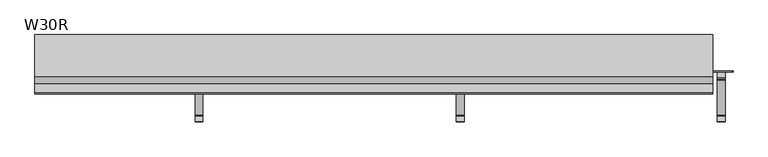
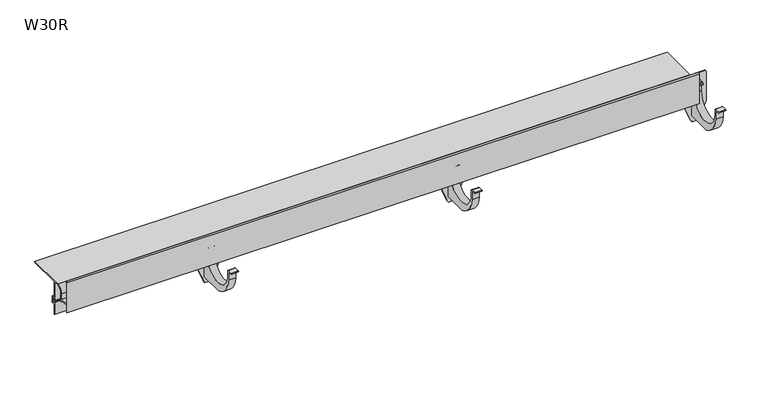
"""IFC4 building model written with IfcOpenShell, lengths in millimetres: proxy geometry, W30R Profil okapowy prosty z rynną : W30R."""

from ifc_helpers import new_model, si_unit, point, frame, frame_2d, origin, place, context, project, spatial, polyline, circle_curve, trimmed, segment, composite_curve, outline, extrude, source, transform, mapped, element, save
from ifc_brep_helpers import plane_surface, cylinder_surface, revolved_surface, advanced_brep


def w30r_3a325fd7(model_context):
    return source(origin(), model_context, "Body", "SolidModel", [
        advanced_brep(
        [(1306.4889281, -43.253125, -67.3579557), (1306.4889281, 31.746875, -67.3579557), (1306.4889281, 33.746875, -48.4650699), (1306.4889281, 28.3326614, -49.0508489), (1306.4889281, 26.9184479, -50.4650625), (1306.4889281, 25.5042343, -49.0508489), (1306.4889281, 26.9184479, -47.6366354), (1306.4889281, 29.746875, -46.4650625), (1306.4889281, 39.746875, -46.4650625), (1306.4889281, 39.746875, -121.4650625), (1306.4889281, -11.253125, -121.4654849), (1306.4889281, -45.753125, -76.6748546), (1306.4889281, -45.753125, -62.0548341), (1306.4889281, -45.753125, -58.4654849), (1306.4889281, -54.253125, -58.4654849), (1306.4889281, -54.253125, -56.4654849), (1306.4889281, -44.253125, -56.4654849), (1306.4889281, -43.253125, -57.4654849), (1321.4889281, -43.253125, -67.3579557), (1321.4889281, -43.253125, -57.4654849), (1321.4889281, -44.253125, -56.4654849), (1321.4889281, -54.253125, -56.4654849), (1321.4889281, -54.253125, -58.4654849), (1321.4889281, -45.753125, -58.4654849), (1321.4889281, -45.753125, -62.0548341), (1321.4889281, -45.753125, -76.6748546), (1321.4889281, -11.253125, -121.4654849), (1321.4889281, 39.746875, -121.4650625), (1321.4889281, 39.746875, -46.4650625), (1321.4889281, 29.746875, -46.4650625), (1321.4889281, 26.9184479, -47.6366354), (1321.4889281, 25.5042343, -49.0508489), (1321.4889281, 26.9184479, -50.4650625), (1321.4889281, 28.3326614, -49.0508489), (1321.4889281, 33.746875, -48.4650699), (1321.4889281, 31.746875, -67.3579557), (1333.4889281, 39.746875, -33.4650625), (1294.4889281, 39.746875, -33.4650625), (1291.4889281, 39.746875, -36.4650625), (1291.4889281, 39.746875, -98.4650625), (1305.7196973, 39.746875, -132.6189087), (1308.4889281, 39.746875, -134.4650625), (1319.4889281, 39.746875, -134.4650625), (1322.2581588, 39.746875, -132.6189087), (1336.4889281, 39.746875, -98.4650625), (1336.4889281, 39.746875, -36.4650625), (1333.4889281, 41.746875, -33.4650625), (1336.4889281, 41.746875, -36.4650625), (1336.4889281, 41.746875, -98.4650625), (1322.2581588, 41.746875, -132.6189087), (1319.4889281, 41.746875, -134.4650625), (1308.4889281, 41.746875, -134.4650625), (1305.7196973, 41.746875, -132.6189087), (1291.4889281, 41.746875, -98.4650625), (1291.4889281, 41.746875, -36.4650625), (1294.4889281, 41.746875, -33.4650625)],
        [
            (0, 1, circle_curve(frame((1306.4889281, -5.753125, -67.3579557), z_axis=(1.0, 0.0, 0.0), x_axis=(0.0, -1.0, 0.0)), 37.5)),
            (1, 2),
            (2, 3, circle_curve(frame((1306.4889281, 32.9075381, -66.0213045), z_axis=(1.0, 0.0, 0.0), x_axis=(0.0, -1.0, 0.0)), 17.5762868)),
            (3, 4),
            (4, 5, circle_curve(frame((1306.4889281, 26.2113411, -49.7579557), z_axis=(-1.0, 0.0, 0.0), x_axis=(0.0, -1.0, 0.0)), 1.0)),
            (5, 6),
            (6, 7, circle_curve(frame((1306.4889281, 29.746875, -50.4650625), z_axis=(-1.0, 0.0, 0.0), x_axis=(0.0, -1.0, 0.0)), 4.0)),
            (7, 8),
            (8, 9),
            (9, 10),
            (10, 11, circle_curve(frame((1306.4889281, 6.9272146, -71.7799373), z_axis=(-1.0, 0.0, 0.0), x_axis=(0.0, -1.0, 0.0)), 52.9072622)),
            (11, 12),
            (12, 13),
            (13, 14),
            (14, 15, circle_curve(frame((1306.4889281, -54.253125, -57.4654849), z_axis=(-1.0, 0.0, 0.0), x_axis=(0.0, -1.0, 0.0)), 1.0)),
            (15, 16),
            (16, 17, circle_curve(frame((1306.4889281, -44.253125, -57.4654849), z_axis=(-1.0, 0.0, 0.0), x_axis=(0.0, -1.0, 0.0)), 1.0)),
            (17, 0),
            (18, 19),
            (19, 20, circle_curve(frame((1321.4889281, -44.253125, -57.4654849), z_axis=(1.0, 0.0, 0.0), x_axis=(0.0, -1.0, 0.0)), 1.0)),
            (20, 21),
            (21, 22, circle_curve(frame((1321.4889281, -54.253125, -57.4654849), z_axis=(1.0, 0.0, 0.0), x_axis=(0.0, -1.0, 0.0)), 1.0)),
            (22, 23),
            (23, 24),
            (24, 25),
            (25, 26, circle_curve(frame((1321.4889281, 6.9272146, -71.7799373), z_axis=(1.0, 0.0, 0.0), x_axis=(0.0, -1.0, 0.0)), 52.9072622)),
            (26, 27),
            (27, 28),
            (28, 29),
            (29, 30, circle_curve(frame((1321.4889281, 29.746875, -50.4650625), z_axis=(1.0, 0.0, 0.0), x_axis=(0.0, -1.0, 0.0)), 4.0)),
            (30, 31),
            (31, 32, circle_curve(frame((1321.4889281, 26.2113411, -49.7579557), z_axis=(1.0, 0.0, 0.0), x_axis=(0.0, -1.0, 0.0)), 1.0)),
            (32, 33),
            (33, 34, circle_curve(frame((1321.4889281, 32.9075381, -66.0213045), z_axis=(-1.0, 0.0, 0.0), x_axis=(0.0, -1.0, 0.0)), 17.5762868)),
            (34, 35),
            (35, 18, circle_curve(frame((1321.4889281, -5.753125, -67.3579557), z_axis=(-1.0, 0.0, 0.0), x_axis=(0.0, -1.0, 0.0)), 37.5)),
            (17, 19),
            (18, 0),
            (16, 20),
            (15, 21),
            (14, 22),
            (13, 23),
            (12, 24),
            (11, 25),
            (10, 26),
            (9, 27),
            (7, 29),
            (28, 8),
            (6, 30),
            (5, 31),
            (4, 32),
            (3, 33),
            (2, 34),
            (1, 35),
            (36, 37),
            (37, 38, circle_curve(frame((1294.4889281, 39.746875, -36.4650625), z_axis=(0.0, -1.0, 0.0), x_axis=(1.0, 0.0, 0.0)), 3.0)),
            (38, 39),
            (39, 40),
            (40, 41, circle_curve(frame((1308.4889281, 39.746875, -131.4650625), z_axis=(0.0, -1.0, 0.0), x_axis=(1.0, 0.0, 0.0)), 3.0)),
            (41, 42),
            (42, 43, circle_curve(frame((1319.4889281, 39.746875, -131.4650625), z_axis=(0.0, -1.0, 0.0), x_axis=(1.0, 0.0, 0.0)), 3.0)),
            (43, 44),
            (44, 45),
            (45, 36, circle_curve(frame((1333.4889281, 39.746875, -36.4650625), z_axis=(0.0, -1.0, 0.0), x_axis=(1.0, 0.0, 0.0)), 3.0)),
            (46, 47, circle_curve(frame((1333.4889281, 41.746875, -36.4650625), z_axis=(0.0, 1.0, 0.0), x_axis=(1.0, 0.0, 0.0)), 3.0)),
            (47, 48),
            (48, 49),
            (49, 50, circle_curve(frame((1319.4889281, 41.746875, -131.4650625), z_axis=(0.0, 1.0, 0.0), x_axis=(1.0, 0.0, 0.0)), 3.0)),
            (50, 51),
            (51, 52, circle_curve(frame((1308.4889281, 41.746875, -131.4650625), z_axis=(0.0, 1.0, 0.0), x_axis=(1.0, 0.0, 0.0)), 3.0)),
            (52, 53),
            (53, 54),
            (54, 55, circle_curve(frame((1294.4889281, 41.746875, -36.4650625), z_axis=(0.0, 1.0, 0.0), x_axis=(1.0, 0.0, 0.0)), 3.0)),
            (55, 46),
            (36, 46),
            (55, 37),
            (54, 38),
            (53, 39),
            (52, 40),
            (51, 41),
            (50, 42),
            (49, 43),
            (48, 44),
            (47, 45),
        ],
        [
            plane_surface(frame((1306.4889281, -43.253125, -57.4654849), z_axis=(-1.0, 0.0, 0.0), x_axis=(0.0, 0.0, -1.0))),
            plane_surface(frame((1321.4889281, -43.253125, -57.4654849), z_axis=(1.0, 0.0, 0.0), x_axis=(0.0, 0.0, 1.0))),
            plane_surface(frame((1321.4889281, -43.253125, -67.3579557), z_axis=(0.0, 1.0, 0.0), x_axis=(-1.0, 0.0, 0.0))),
            cylinder_surface(frame((1306.4889281, -44.253125, -57.4654849), z_axis=(1.0, 0.0, 0.0), x_axis=(0.0, -1.0, 0.0)), 1.0),
            plane_surface(frame((1321.4889281, -44.253125, -56.4654849), z_axis=(0.0, 0.0, 1.0), x_axis=(-1.0, 0.0, 0.0))),
            cylinder_surface(frame((1306.4889281, -54.253125, -57.4654849), z_axis=(1.0, 0.0, 0.0), x_axis=(0.0, -1.0, 0.0)), 1.0),
            plane_surface(frame((1321.4889281, -54.253125, -58.4654849), z_axis=(0.0, 0.0, -1.0), x_axis=(-1.0, 0.0, 0.0))),
            plane_surface(frame((1321.4889281, -45.753125, -58.4654849), z_axis=(0.0, -1.0, 0.0), x_axis=(-1.0, 0.0, 0.0))),
            plane_surface(frame((1321.4889281, -45.753125, -62.0548341), z_axis=(0.0, -1.0, 0.0), x_axis=(-1.0, 0.0, 0.0))),
            cylinder_surface(frame((1306.4889281, 6.9272146, -71.7799373), z_axis=(1.0, 0.0, 0.0), x_axis=(0.0, -1.0, 0.0)), 52.9072622),
            plane_surface(frame((1321.4889281, -11.253125, -121.4654849), z_axis=(0.0, 8.283194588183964e-06, -0.9999999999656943), x_axis=(-1.0, 0.0, 0.0))),
            plane_surface(frame((1321.4889281, 40.7901639, -46.4650625), z_axis=(0.0, 0.0, 1.0), x_axis=(-1.0, 0.0, 0.0))),
            cylinder_surface(frame((1306.4889281, 29.746875, -50.4650625), z_axis=(1.0, 0.0, 0.0), x_axis=(0.0, -1.0, 0.0)), 4.0),
            plane_surface(frame((1321.4889281, 26.9184479, -47.6366354), z_axis=(0.0, -0.7071067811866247, 0.7071067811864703), x_axis=(-1.0, 0.0, 0.0))),
            cylinder_surface(frame((1306.4889281, 26.2113411, -49.7579557), z_axis=(1.0, 0.0, 0.0), x_axis=(0.0, -1.0, 0.0)), 1.0),
            plane_surface(frame((1321.4889281, 26.9184479, -50.4650625), z_axis=(0.0, 0.7071067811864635, -0.7071067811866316), x_axis=(-1.0, 0.0, 0.0))),
            revolved_surface(polyline([(1306.4889281, 15.331251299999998, -66.0213045), (1321.4889281, 15.331251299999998, -66.0213045)]), (1306.4889281, 32.9075381, -66.0213045), (-1.0, 0.0, 0.0)),
            plane_surface(frame((1321.4889281, 33.746875, -48.4650699), z_axis=(0.0, -0.9944434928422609, 0.10527174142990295), x_axis=(-1.0, 0.0, 0.0))),
            revolved_surface(polyline([(1306.4889281, -43.253125, -67.3579557), (1321.4889281, -43.253125, -67.3579557)]), (1306.4889281, -5.753125, -67.3579557), (-1.0, 0.0, 0.0)),
            plane_surface(frame((1294.4889281, 39.746875, -33.4650625), z_axis=(0.0, -1.0, 0.0), x_axis=(-1.0, 0.0, 0.0))),
            plane_surface(frame((1294.4889281, 41.746875, -33.4650625), z_axis=(0.0, 1.0, 0.0), x_axis=(1.0, 0.0, 0.0))),
            plane_surface(frame((1333.4889281, 39.746875, -33.4650625), z_axis=(0.0, 0.0, 1.0), x_axis=(0.0, 1.0, 0.0))),
            cylinder_surface(frame((1294.4889281, 41.746875, -36.4650625), z_axis=(0.0, -1.0, 0.0), x_axis=(1.0, 0.0, 0.0)), 3.0),
            plane_surface(frame((1291.4889281, 39.746875, -36.4650625), z_axis=(-1.0, 0.0, 0.0), x_axis=(0.0, 1.0, 0.0))),
            plane_surface(frame((1291.4889281, 39.746875, -98.4650625), z_axis=(-0.9230769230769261, 0.0, -0.38461538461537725), x_axis=(0.0, 1.0, 0.0))),
            cylinder_surface(frame((1308.4889281, 41.746875, -131.4650625), z_axis=(0.0, -1.0, 0.0), x_axis=(1.0, 0.0, 0.0)), 3.0),
            plane_surface(frame((1308.4889281, 39.746875, -134.4650625), z_axis=(0.0, 0.0, -1.0), x_axis=(0.0, 1.0, 0.0))),
            cylinder_surface(frame((1319.4889281, 41.746875, -131.4650625), z_axis=(0.0, -1.0, 0.0), x_axis=(1.0, 0.0, 0.0)), 3.0),
            plane_surface(frame((1322.2581588, 39.746875, -132.6189087), z_axis=(0.9230769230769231, 0.0, -0.3846153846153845), x_axis=(0.0, 1.0, 0.0))),
            plane_surface(frame((1336.4889281, 39.746875, -98.4650625), z_axis=(1.0, 0.0, 0.0), x_axis=(0.0, 1.0, 0.0))),
            cylinder_surface(frame((1333.4889281, 41.746875, -36.4650625), z_axis=(0.0, -1.0, 0.0), x_axis=(1.0, 0.0, 0.0)), 3.0),
        ],
        [
            (0, [[1, 2, 3, 4, 5, 6, 7, 8, 9, 10, 11, 12, 13, 14, 15, 16, 17, 18]]),
            (1, [[19, 20, 21, 22, 23, 24, 25, 26, 27, 28, 29, 30, 31, 32, 33, 34, 35, 36]]),
            (2, [[-18, 37, -19, 38]]),
            (3, [[-17, 39, -20, -37]]),
            (4, [[-16, 40, -21, -39]]),
            (5, [[-15, 41, -22, -40]]),
            (6, [[-14, 42, -23, -41]]),
            (7, [[-13, 43, -24, -42]]),
            (8, [[-12, 44, -25, -43]]),
            (9, [[-11, 45, -26, -44]]),
            (10, [[-45, -10, 46, -27]]),
            (11, [[47, -29, 48, -8]]),
            (12, [[-7, 49, -30, -47]]),
            (13, [[-6, 50, -31, -49]]),
            (14, [[-5, 51, -32, -50]]),
            (15, [[-4, 52, -33, -51]]),
            (16, [[-3, 53, -34, -52]]),
            (17, [[-2, 54, -35, -53]]),
            (18, [[-1, -38, -36, -54]]),
            (19, [[55, 56, 57, 58, 59, 60, 61, 62, 63, 64], [-9, -48, -28, -46]]),
            (20, [[65, 66, 67, 68, 69, 70, 71, 72, 73, 74]]),
            (21, [[-55, 75, -74, 76]]),
            (22, [[-56, -76, -73, 77]]),
            (23, [[-57, -77, -72, 78]]),
            (24, [[-58, -78, -71, 79]]),
            (25, [[-59, -79, -70, 80]]),
            (26, [[-60, -80, -69, 81]]),
            (27, [[-61, -81, -68, 82]]),
            (28, [[-62, -82, -67, 83]]),
            (29, [[-63, -83, -66, 84]]),
            (30, [[-64, -84, -65, -75]]),
        ],
    ),
        advanced_brep(
        [(806.4889281, -43.253125, -67.3579557), (806.4889281, 31.746875, -67.3579557), (806.4889281, 33.746875, -48.4650699), (806.4889281, 28.3326614, -49.0508489), (806.4889281, 26.9184479, -50.4650625), (806.4889281, 25.5042343, -49.0508489), (806.4889281, 26.9184479, -47.6366354), (806.4889281, 29.746875, -46.4650625), (806.4889281, 39.746875, -46.4650625), (806.4889281, 39.746875, -121.4650625), (806.4889281, -11.253125, -121.4654849), (806.4889281, -45.753125, -76.6748546), (806.4889281, -45.753125, -62.0548341), (806.4889281, -45.753125, -58.4654849), (806.4889281, -54.253125, -58.4654849), (806.4889281, -54.253125, -56.4654849), (806.4889281, -44.253125, -56.4654849), (806.4889281, -43.253125, -57.4654849), (821.4889281, -43.253125, -67.3579557), (821.4889281, -43.253125, -57.4654849), (821.4889281, -44.253125, -56.4654849), (821.4889281, -54.253125, -56.4654849), (821.4889281, -54.253125, -58.4654849), (821.4889281, -45.753125, -58.4654849), (821.4889281, -45.753125, -62.0548341), (821.4889281, -45.753125, -76.6748546), (821.4889281, -11.253125, -121.4654849), (821.4889281, 39.746875, -121.4650625), (821.4889281, 39.746875, -46.4650625), (821.4889281, 29.746875, -46.4650625), (821.4889281, 26.9184479, -47.6366354), (821.4889281, 25.5042343, -49.0508489), (821.4889281, 26.9184479, -50.4650625), (821.4889281, 28.3326614, -49.0508489), (821.4889281, 33.746875, -48.4650699), (821.4889281, 31.746875, -67.3579557), (833.4889281, 39.746875, -33.4650625), (794.4889281, 39.746875, -33.4650625), (791.4889281, 39.746875, -36.4650625), (791.4889281, 39.746875, -98.4650625), (805.7196973, 39.746875, -132.6189087), (808.4889281, 39.746875, -134.4650625), (819.4889281, 39.746875, -134.4650625), (822.2581588, 39.746875, -132.6189087), (836.4889281, 39.746875, -98.4650625), (836.4889281, 39.746875, -36.4650625), (833.4889281, 41.746875, -33.4650625), (836.4889281, 41.746875, -36.4650625), (836.4889281, 41.746875, -98.4650625), (822.2581588, 41.746875, -132.6189087), (819.4889281, 41.746875, -134.4650625), (808.4889281, 41.746875, -134.4650625), (805.7196973, 41.746875, -132.6189087), (791.4889281, 41.746875, -98.4650625), (791.4889281, 41.746875, -36.4650625), (794.4889281, 41.746875, -33.4650625)],
        [
            (0, 1, circle_curve(frame((806.4889281, -5.753125, -67.3579557), z_axis=(1.0, 0.0, 0.0), x_axis=(0.0, -1.0, 0.0)), 37.5)),
            (1, 2),
            (2, 3, circle_curve(frame((806.4889281, 32.9075381, -66.0213045), z_axis=(1.0, 0.0, 0.0), x_axis=(0.0, -1.0, 0.0)), 17.5762868)),
            (3, 4),
            (4, 5, circle_curve(frame((806.4889281, 26.2113411, -49.7579557), z_axis=(-1.0, 0.0, 0.0), x_axis=(0.0, -1.0, 0.0)), 1.0)),
            (5, 6),
            (6, 7, circle_curve(frame((806.4889281, 29.746875, -50.4650625), z_axis=(-1.0, 0.0, 0.0), x_axis=(0.0, -1.0, 0.0)), 4.0)),
            (7, 8),
            (8, 9),
            (9, 10),
            (10, 11, circle_curve(frame((806.4889281, 6.9272146, -71.7799373), z_axis=(-1.0, 0.0, 0.0), x_axis=(0.0, -1.0, 0.0)), 52.9072622)),
            (11, 12),
            (12, 13),
            (13, 14),
            (14, 15, circle_curve(frame((806.4889281, -54.253125, -57.4654849), z_axis=(-1.0, 0.0, 0.0), x_axis=(0.0, -1.0, 0.0)), 1.0)),
            (15, 16),
            (16, 17, circle_curve(frame((806.4889281, -44.253125, -57.4654849), z_axis=(-1.0, 0.0, 0.0), x_axis=(0.0, -1.0, 0.0)), 1.0)),
            (17, 0),
            (18, 19),
            (19, 20, circle_curve(frame((821.4889281, -44.253125, -57.4654849), z_axis=(1.0, 0.0, 0.0), x_axis=(0.0, -1.0, 0.0)), 1.0)),
            (20, 21),
            (21, 22, circle_curve(frame((821.4889281, -54.253125, -57.4654849), z_axis=(1.0, 0.0, 0.0), x_axis=(0.0, -1.0, 0.0)), 1.0)),
            (22, 23),
            (23, 24),
            (24, 25),
            (25, 26, circle_curve(frame((821.4889281, 6.9272146, -71.7799373), z_axis=(1.0, 0.0, 0.0), x_axis=(0.0, -1.0, 0.0)), 52.9072622)),
            (26, 27),
            (27, 28),
            (28, 29),
            (29, 30, circle_curve(frame((821.4889281, 29.746875, -50.4650625), z_axis=(1.0, 0.0, 0.0), x_axis=(0.0, -1.0, 0.0)), 4.0)),
            (30, 31),
            (31, 32, circle_curve(frame((821.4889281, 26.2113411, -49.7579557), z_axis=(1.0, 0.0, 0.0), x_axis=(0.0, -1.0, 0.0)), 1.0)),
            (32, 33),
            (33, 34, circle_curve(frame((821.4889281, 32.9075381, -66.0213045), z_axis=(-1.0, 0.0, 0.0), x_axis=(0.0, -1.0, 0.0)), 17.5762868)),
            (34, 35),
            (35, 18, circle_curve(frame((821.4889281, -5.753125, -67.3579557), z_axis=(-1.0, 0.0, 0.0), x_axis=(0.0, -1.0, 0.0)), 37.5)),
            (17, 19),
            (18, 0),
            (16, 20),
            (15, 21),
            (14, 22),
            (13, 23),
            (12, 24),
            (11, 25),
            (10, 26),
            (9, 27),
            (7, 29),
            (28, 8),
            (6, 30),
            (5, 31),
            (4, 32),
            (3, 33),
            (2, 34),
            (1, 35),
            (36, 37),
            (37, 38, circle_curve(frame((794.4889281, 39.746875, -36.4650625), z_axis=(0.0, -1.0, 0.0), x_axis=(1.0, 0.0, 0.0)), 3.0)),
            (38, 39),
            (39, 40),
            (40, 41, circle_curve(frame((808.4889281, 39.746875, -131.4650625), z_axis=(0.0, -1.0, 0.0), x_axis=(1.0, 0.0, 0.0)), 3.0)),
            (41, 42),
            (42, 43, circle_curve(frame((819.4889281, 39.746875, -131.4650625), z_axis=(0.0, -1.0, 0.0), x_axis=(1.0, 0.0, 0.0)), 3.0)),
            (43, 44),
            (44, 45),
            (45, 36, circle_curve(frame((833.4889281, 39.746875, -36.4650625), z_axis=(0.0, -1.0, 0.0), x_axis=(1.0, 0.0, 0.0)), 3.0)),
            (46, 47, circle_curve(frame((833.4889281, 41.746875, -36.4650625), z_axis=(0.0, 1.0, 0.0), x_axis=(1.0, 0.0, 0.0)), 3.0)),
            (47, 48),
            (48, 49),
            (49, 50, circle_curve(frame((819.4889281, 41.746875, -131.4650625), z_axis=(0.0, 1.0, 0.0), x_axis=(1.0, 0.0, 0.0)), 3.0)),
            (50, 51),
            (51, 52, circle_curve(frame((808.4889281, 41.746875, -131.4650625), z_axis=(0.0, 1.0, 0.0), x_axis=(1.0, 0.0, 0.0)), 3.0)),
            (52, 53),
            (53, 54),
            (54, 55, circle_curve(frame((794.4889281, 41.746875, -36.4650625), z_axis=(0.0, 1.0, 0.0), x_axis=(1.0, 0.0, 0.0)), 3.0)),
            (55, 46),
            (36, 46),
            (55, 37),
            (54, 38),
            (53, 39),
            (52, 40),
            (51, 41),
            (50, 42),
            (49, 43),
            (48, 44),
            (47, 45),
        ],
        [
            plane_surface(frame((806.4889281, -43.253125, -57.4654849), z_axis=(-1.0, 0.0, 0.0), x_axis=(0.0, 0.0, -1.0))),
            plane_surface(frame((821.4889281, -43.253125, -57.4654849), z_axis=(1.0, 0.0, 0.0), x_axis=(0.0, 0.0, 1.0))),
            plane_surface(frame((821.4889281, -43.253125, -67.3579557), z_axis=(0.0, 1.0, 0.0), x_axis=(-1.0, 0.0, 0.0))),
            cylinder_surface(frame((806.4889281, -44.253125, -57.4654849), z_axis=(1.0, 0.0, 0.0), x_axis=(0.0, -1.0, 0.0)), 1.0),
            plane_surface(frame((821.4889281, -44.253125, -56.4654849), z_axis=(0.0, 0.0, 1.0), x_axis=(-1.0, 0.0, 0.0))),
            cylinder_surface(frame((806.4889281, -54.253125, -57.4654849), z_axis=(1.0, 0.0, 0.0), x_axis=(0.0, -1.0, 0.0)), 1.0),
            plane_surface(frame((821.4889281, -54.253125, -58.4654849), z_axis=(0.0, 0.0, -1.0), x_axis=(-1.0, 0.0, 0.0))),
            plane_surface(frame((821.4889281, -45.753125, -58.4654849), z_axis=(0.0, -1.0, 0.0), x_axis=(-1.0, 0.0, 0.0))),
            plane_surface(frame((821.4889281, -45.753125, -62.0548341), z_axis=(0.0, -1.0, 0.0), x_axis=(-1.0, 0.0, 0.0))),
            cylinder_surface(frame((806.4889281, 6.9272146, -71.7799373), z_axis=(1.0, 0.0, 0.0), x_axis=(0.0, -1.0, 0.0)), 52.9072622),
            plane_surface(frame((821.4889281, -11.253125, -121.4654849), z_axis=(0.0, 8.283194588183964e-06, -0.9999999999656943), x_axis=(-1.0, 0.0, 0.0))),
            plane_surface(frame((821.4889281, 40.7901639, -46.4650625), z_axis=(0.0, 0.0, 1.0), x_axis=(-1.0, 0.0, 0.0))),
            cylinder_surface(frame((806.4889281, 29.746875, -50.4650625), z_axis=(1.0, 0.0, 0.0), x_axis=(0.0, -1.0, 0.0)), 4.0),
            plane_surface(frame((821.4889281, 26.9184479, -47.6366354), z_axis=(0.0, -0.7071067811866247, 0.7071067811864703), x_axis=(-1.0, 0.0, 0.0))),
            cylinder_surface(frame((806.4889281, 26.2113411, -49.7579557), z_axis=(1.0, 0.0, 0.0), x_axis=(0.0, -1.0, 0.0)), 1.0),
            plane_surface(frame((821.4889281, 26.9184479, -50.4650625), z_axis=(0.0, 0.7071067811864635, -0.7071067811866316), x_axis=(-1.0, 0.0, 0.0))),
            revolved_surface(polyline([(806.4889281, 15.331251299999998, -66.0213045), (821.4889281, 15.331251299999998, -66.0213045)]), (806.4889281, 32.9075381, -66.0213045), (-1.0, 0.0, 0.0)),
            plane_surface(frame((821.4889281, 33.746875, -48.4650699), z_axis=(0.0, -0.9944434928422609, 0.10527174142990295), x_axis=(-1.0, 0.0, 0.0))),
            revolved_surface(polyline([(806.4889281, -43.253125, -67.3579557), (821.4889281, -43.253125, -67.3579557)]), (806.4889281, -5.753125, -67.3579557), (-1.0, 0.0, 0.0)),
            plane_surface(frame((794.4889281, 39.746875, -33.4650625), z_axis=(0.0, -1.0, 0.0), x_axis=(-1.0, 0.0, 0.0))),
            plane_surface(frame((794.4889281, 41.746875, -33.4650625), z_axis=(0.0, 1.0, 0.0), x_axis=(1.0, 0.0, 0.0))),
            plane_surface(frame((833.4889281, 39.746875, -33.4650625), z_axis=(0.0, 0.0, 1.0), x_axis=(0.0, 1.0, 0.0))),
            cylinder_surface(frame((794.4889281, 41.746875, -36.4650625), z_axis=(0.0, -1.0, 0.0), x_axis=(1.0, 0.0, 0.0)), 3.0),
            plane_surface(frame((791.4889281, 39.746875, -36.4650625), z_axis=(-1.0, 0.0, 0.0), x_axis=(0.0, 1.0, 0.0))),
            plane_surface(frame((791.4889281, 39.746875, -98.4650625), z_axis=(-0.9230769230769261, 0.0, -0.38461538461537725), x_axis=(0.0, 1.0, 0.0))),
            cylinder_surface(frame((808.4889281, 41.746875, -131.4650625), z_axis=(0.0, -1.0, 0.0), x_axis=(1.0, 0.0, 0.0)), 3.0),
            plane_surface(frame((808.4889281, 39.746875, -134.4650625), z_axis=(0.0, 0.0, -1.0), x_axis=(0.0, 1.0, 0.0))),
            cylinder_surface(frame((819.4889281, 41.746875, -131.4650625), z_axis=(0.0, -1.0, 0.0), x_axis=(1.0, 0.0, 0.0)), 3.0),
            plane_surface(frame((822.2581588, 39.746875, -132.6189087), z_axis=(0.9230769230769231, 0.0, -0.3846153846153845), x_axis=(0.0, 1.0, 0.0))),
            plane_surface(frame((836.4889281, 39.746875, -98.4650625), z_axis=(1.0, 0.0, 0.0), x_axis=(0.0, 1.0, 0.0))),
            cylinder_surface(frame((833.4889281, 41.746875, -36.4650625), z_axis=(0.0, -1.0, 0.0), x_axis=(1.0, 0.0, 0.0)), 3.0),
        ],
        [
            (0, [[1, 2, 3, 4, 5, 6, 7, 8, 9, 10, 11, 12, 13, 14, 15, 16, 17, 18]]),
            (1, [[19, 20, 21, 22, 23, 24, 25, 26, 27, 28, 29, 30, 31, 32, 33, 34, 35, 36]]),
            (2, [[-18, 37, -19, 38]]),
            (3, [[-17, 39, -20, -37]]),
            (4, [[-16, 40, -21, -39]]),
            (5, [[-15, 41, -22, -40]]),
            (6, [[-14, 42, -23, -41]]),
            (7, [[-13, 43, -24, -42]]),
            (8, [[-12, 44, -25, -43]]),
            (9, [[-11, 45, -26, -44]]),
            (10, [[-45, -10, 46, -27]]),
            (11, [[47, -29, 48, -8]]),
            (12, [[-7, 49, -30, -47]]),
            (13, [[-6, 50, -31, -49]]),
            (14, [[-5, 51, -32, -50]]),
            (15, [[-4, 52, -33, -51]]),
            (16, [[-3, 53, -34, -52]]),
            (17, [[-2, 54, -35, -53]]),
            (18, [[-1, -38, -36, -54]]),
            (19, [[55, 56, 57, 58, 59, 60, 61, 62, 63, 64], [-9, -48, -28, -46]]),
            (20, [[65, 66, 67, 68, 69, 70, 71, 72, 73, 74]]),
            (21, [[-55, 75, -74, 76]]),
            (22, [[-56, -76, -73, 77]]),
            (23, [[-57, -77, -72, 78]]),
            (24, [[-58, -78, -71, 79]]),
            (25, [[-59, -79, -70, 80]]),
            (26, [[-60, -80, -69, 81]]),
            (27, [[-61, -81, -68, 82]]),
            (28, [[-62, -82, -67, 83]]),
            (29, [[-63, -83, -66, 84]]),
            (30, [[-64, -84, -65, -75]]),
        ],
    ),
        advanced_brep(
        [(306.4889281, -43.253125, -67.3579557), (306.4889281, 31.746875, -67.3579557), (306.4889281, 33.746875, -48.4650699), (306.4889281, 28.3326614, -49.0508489), (306.4889281, 26.9184479, -50.4650625), (306.4889281, 25.5042343, -49.0508489), (306.4889281, 26.9184479, -47.6366354), (306.4889281, 29.746875, -46.4650625), (306.4889281, 39.746875, -46.4650625), (306.4889281, 39.746875, -121.4650625), (306.4889281, -11.253125, -121.4654849), (306.4889281, -45.753125, -76.6748546), (306.4889281, -45.753125, -62.0548341), (306.4889281, -45.753125, -58.4654849), (306.4889281, -54.253125, -58.4654849), (306.4889281, -54.253125, -56.4654849), (306.4889281, -44.253125, -56.4654849), (306.4889281, -43.253125, -57.4654849), (321.4889281, -43.253125, -67.3579557), (321.4889281, -43.253125, -57.4654849), (321.4889281, -44.253125, -56.4654849), (321.4889281, -54.253125, -56.4654849), (321.4889281, -54.253125, -58.4654849), (321.4889281, -45.753125, -58.4654849), (321.4889281, -45.753125, -62.0548341), (321.4889281, -45.753125, -76.6748546), (321.4889281, -11.253125, -121.4654849), (321.4889281, 39.746875, -121.4650625), (321.4889281, 39.746875, -46.4650625), (321.4889281, 29.746875, -46.4650625), (321.4889281, 26.9184479, -47.6366354), (321.4889281, 25.5042343, -49.0508489), (321.4889281, 26.9184479, -50.4650625), (321.4889281, 28.3326614, -49.0508489), (321.4889281, 33.746875, -48.4650699), (321.4889281, 31.746875, -67.3579557), (333.4889281, 39.746875, -33.4650625), (294.4889281, 39.746875, -33.4650625), (291.4889281, 39.746875, -36.4650625), (291.4889281, 39.746875, -98.4650625), (305.7196973, 39.746875, -132.6189087), (308.4889281, 39.746875, -134.4650625), (319.4889281, 39.746875, -134.4650625), (322.2581588, 39.746875, -132.6189087), (336.4889281, 39.746875, -98.4650625), (336.4889281, 39.746875, -36.4650625), (333.4889281, 41.746875, -33.4650625), (336.4889281, 41.746875, -36.4650625), (336.4889281, 41.746875, -98.4650625), (322.2581588, 41.746875, -132.6189087), (319.4889281, 41.746875, -134.4650625), (308.4889281, 41.746875, -134.4650625), (305.7196973, 41.746875, -132.6189087), (291.4889281, 41.746875, -98.4650625), (291.4889281, 41.746875, -36.4650625), (294.4889281, 41.746875, -33.4650625)],
        [
            (0, 1, circle_curve(frame((306.4889281, -5.753125, -67.3579557), z_axis=(1.0, 0.0, 0.0), x_axis=(0.0, -1.0, 0.0)), 37.5)),
            (1, 2),
            (2, 3, circle_curve(frame((306.4889281, 32.9075381, -66.0213045), z_axis=(1.0, 0.0, 0.0), x_axis=(0.0, -1.0, 0.0)), 17.5762868)),
            (3, 4),
            (4, 5, circle_curve(frame((306.4889281, 26.2113411, -49.7579557), z_axis=(-1.0, 0.0, 0.0), x_axis=(0.0, -1.0, 0.0)), 1.0)),
            (5, 6),
            (6, 7, circle_curve(frame((306.4889281, 29.746875, -50.4650625), z_axis=(-1.0, 0.0, 0.0), x_axis=(0.0, -1.0, 0.0)), 4.0)),
            (7, 8),
            (8, 9),
            (9, 10),
            (10, 11, circle_curve(frame((306.4889281, 6.9272146, -71.7799373), z_axis=(-1.0, 0.0, 0.0), x_axis=(0.0, -1.0, 0.0)), 52.9072622)),
            (11, 12),
            (12, 13),
            (13, 14),
            (14, 15, circle_curve(frame((306.4889281, -54.253125, -57.4654849), z_axis=(-1.0, 0.0, 0.0), x_axis=(0.0, -1.0, 0.0)), 1.0)),
            (15, 16),
            (16, 17, circle_curve(frame((306.4889281, -44.253125, -57.4654849), z_axis=(-1.0, 0.0, 0.0), x_axis=(0.0, -1.0, 0.0)), 1.0)),
            (17, 0),
            (18, 19),
            (19, 20, circle_curve(frame((321.4889281, -44.253125, -57.4654849), z_axis=(1.0, 0.0, 0.0), x_axis=(0.0, -1.0, 0.0)), 1.0)),
            (20, 21),
            (21, 22, circle_curve(frame((321.4889281, -54.253125, -57.4654849), z_axis=(1.0, 0.0, 0.0), x_axis=(0.0, -1.0, 0.0)), 1.0)),
            (22, 23),
            (23, 24),
            (24, 25),
            (25, 26, circle_curve(frame((321.4889281, 6.9272146, -71.7799373), z_axis=(1.0, 0.0, 0.0), x_axis=(0.0, -1.0, 0.0)), 52.9072622)),
            (26, 27),
            (27, 28),
            (28, 29),
            (29, 30, circle_curve(frame((321.4889281, 29.746875, -50.4650625), z_axis=(1.0, 0.0, 0.0), x_axis=(0.0, -1.0, 0.0)), 4.0)),
            (30, 31),
            (31, 32, circle_curve(frame((321.4889281, 26.2113411, -49.7579557), z_axis=(1.0, 0.0, 0.0), x_axis=(0.0, -1.0, 0.0)), 1.0)),
            (32, 33),
            (33, 34, circle_curve(frame((321.4889281, 32.9075381, -66.0213045), z_axis=(-1.0, 0.0, 0.0), x_axis=(0.0, -1.0, 0.0)), 17.5762868)),
            (34, 35),
            (35, 18, circle_curve(frame((321.4889281, -5.753125, -67.3579557), z_axis=(-1.0, 0.0, 0.0), x_axis=(0.0, -1.0, 0.0)), 37.5)),
            (17, 19),
            (18, 0),
            (16, 20),
            (15, 21),
            (14, 22),
            (13, 23),
            (12, 24),
            (11, 25),
            (10, 26),
            (9, 27),
            (7, 29),
            (28, 8),
            (6, 30),
            (5, 31),
            (4, 32),
            (3, 33),
            (2, 34),
            (1, 35),
            (36, 37),
            (37, 38, circle_curve(frame((294.4889281, 39.746875, -36.4650625), z_axis=(0.0, -1.0, 0.0), x_axis=(1.0, 0.0, 0.0)), 3.0)),
            (38, 39),
            (39, 40),
            (40, 41, circle_curve(frame((308.4889281, 39.746875, -131.4650625), z_axis=(0.0, -1.0, 0.0), x_axis=(1.0, 0.0, 0.0)), 3.0)),
            (41, 42),
            (42, 43, circle_curve(frame((319.4889281, 39.746875, -131.4650625), z_axis=(0.0, -1.0, 0.0), x_axis=(1.0, 0.0, 0.0)), 3.0)),
            (43, 44),
            (44, 45),
            (45, 36, circle_curve(frame((333.4889281, 39.746875, -36.4650625), z_axis=(0.0, -1.0, 0.0), x_axis=(1.0, 0.0, 0.0)), 3.0)),
            (46, 47, circle_curve(frame((333.4889281, 41.746875, -36.4650625), z_axis=(0.0, 1.0, 0.0), x_axis=(1.0, 0.0, 0.0)), 3.0)),
            (47, 48),
            (48, 49),
            (49, 50, circle_curve(frame((319.4889281, 41.746875, -131.4650625), z_axis=(0.0, 1.0, 0.0), x_axis=(1.0, 0.0, 0.0)), 3.0)),
            (50, 51),
            (51, 52, circle_curve(frame((308.4889281, 41.746875, -131.4650625), z_axis=(0.0, 1.0, 0.0), x_axis=(1.0, 0.0, 0.0)), 3.0)),
            (52, 53),
            (53, 54),
            (54, 55, circle_curve(frame((294.4889281, 41.746875, -36.4650625), z_axis=(0.0, 1.0, 0.0), x_axis=(1.0, 0.0, 0.0)), 3.0)),
            (55, 46),
            (36, 46),
            (55, 37),
            (54, 38),
            (53, 39),
            (52, 40),
            (51, 41),
            (50, 42),
            (49, 43),
            (48, 44),
            (47, 45),
        ],
        [
            plane_surface(frame((306.4889281, -43.253125, -57.4654849), z_axis=(-1.0, 0.0, 0.0), x_axis=(0.0, 0.0, -1.0))),
            plane_surface(frame((321.4889281, -43.253125, -57.4654849), z_axis=(1.0, 0.0, 0.0), x_axis=(0.0, 0.0, 1.0))),
            plane_surface(frame((321.4889281, -43.253125, -67.3579557), z_axis=(0.0, 1.0, 0.0), x_axis=(-1.0, 0.0, 0.0))),
            cylinder_surface(frame((306.4889281, -44.253125, -57.4654849), z_axis=(1.0, 0.0, 0.0), x_axis=(0.0, -1.0, 0.0)), 1.0),
            plane_surface(frame((321.4889281, -44.253125, -56.4654849), z_axis=(0.0, 0.0, 1.0), x_axis=(-1.0, 0.0, 0.0))),
            cylinder_surface(frame((306.4889281, -54.253125, -57.4654849), z_axis=(1.0, 0.0, 0.0), x_axis=(0.0, -1.0, 0.0)), 1.0),
            plane_surface(frame((321.4889281, -54.253125, -58.4654849), z_axis=(0.0, 0.0, -1.0), x_axis=(-1.0, 0.0, 0.0))),
            plane_surface(frame((321.4889281, -45.753125, -58.4654849), z_axis=(0.0, -1.0, 0.0), x_axis=(-1.0, 0.0, 0.0))),
            plane_surface(frame((321.4889281, -45.753125, -62.0548341), z_axis=(0.0, -1.0, 0.0), x_axis=(-1.0, 0.0, 0.0))),
            cylinder_surface(frame((306.4889281, 6.9272146, -71.7799373), z_axis=(1.0, 0.0, 0.0), x_axis=(0.0, -1.0, 0.0)), 52.9072622),
            plane_surface(frame((321.4889281, -11.253125, -121.4654849), z_axis=(0.0, 8.283194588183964e-06, -0.9999999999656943), x_axis=(-1.0, 0.0, 0.0))),
            plane_surface(frame((321.4889281, 40.7901639, -46.4650625), z_axis=(0.0, 0.0, 1.0), x_axis=(-1.0, 0.0, 0.0))),
            cylinder_surface(frame((306.4889281, 29.746875, -50.4650625), z_axis=(1.0, 0.0, 0.0), x_axis=(0.0, -1.0, 0.0)), 4.0),
            plane_surface(frame((321.4889281, 26.9184479, -47.6366354), z_axis=(0.0, -0.7071067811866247, 0.7071067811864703), x_axis=(-1.0, 0.0, 0.0))),
            cylinder_surface(frame((306.4889281, 26.2113411, -49.7579557), z_axis=(1.0, 0.0, 0.0), x_axis=(0.0, -1.0, 0.0)), 1.0),
            plane_surface(frame((321.4889281, 26.9184479, -50.4650625), z_axis=(0.0, 0.7071067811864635, -0.7071067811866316), x_axis=(-1.0, 0.0, 0.0))),
            revolved_surface(polyline([(306.4889281, 15.331251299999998, -66.0213045), (321.4889281, 15.331251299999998, -66.0213045)]), (306.4889281, 32.9075381, -66.0213045), (-1.0, 0.0, 0.0)),
            plane_surface(frame((321.4889281, 33.746875, -48.4650699), z_axis=(0.0, -0.9944434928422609, 0.10527174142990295), x_axis=(-1.0, 0.0, 0.0))),
            revolved_surface(polyline([(306.4889281, -43.253125, -67.3579557), (321.4889281, -43.253125, -67.3579557)]), (306.4889281, -5.753125, -67.3579557), (-1.0, 0.0, 0.0)),
            plane_surface(frame((294.4889281, 39.746875, -33.4650625), z_axis=(0.0, -1.0, 0.0), x_axis=(-1.0, 0.0, 0.0))),
            plane_surface(frame((294.4889281, 41.746875, -33.4650625), z_axis=(0.0, 1.0, 0.0), x_axis=(1.0, 0.0, 0.0))),
            plane_surface(frame((333.4889281, 39.746875, -33.4650625), z_axis=(0.0, 0.0, 1.0), x_axis=(0.0, 1.0, 0.0))),
            cylinder_surface(frame((294.4889281, 41.746875, -36.4650625), z_axis=(0.0, -1.0, 0.0), x_axis=(1.0, 0.0, 0.0)), 3.0),
            plane_surface(frame((291.4889281, 39.746875, -36.4650625), z_axis=(-1.0, 0.0, 0.0), x_axis=(0.0, 1.0, 0.0))),
            plane_surface(frame((291.4889281, 39.746875, -98.4650625), z_axis=(-0.9230769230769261, 0.0, -0.38461538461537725), x_axis=(0.0, 1.0, 0.0))),
            cylinder_surface(frame((308.4889281, 41.746875, -131.4650625), z_axis=(0.0, -1.0, 0.0), x_axis=(1.0, 0.0, 0.0)), 3.0),
            plane_surface(frame((308.4889281, 39.746875, -134.4650625), z_axis=(0.0, 0.0, -1.0), x_axis=(0.0, 1.0, 0.0))),
            cylinder_surface(frame((319.4889281, 41.746875, -131.4650625), z_axis=(0.0, -1.0, 0.0), x_axis=(1.0, 0.0, 0.0)), 3.0),
            plane_surface(frame((322.2581588, 39.746875, -132.6189087), z_axis=(0.9230769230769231, 0.0, -0.3846153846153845), x_axis=(0.0, 1.0, 0.0))),
            plane_surface(frame((336.4889281, 39.746875, -98.4650625), z_axis=(1.0, 0.0, 0.0), x_axis=(0.0, 1.0, 0.0))),
            cylinder_surface(frame((333.4889281, 41.746875, -36.4650625), z_axis=(0.0, -1.0, 0.0), x_axis=(1.0, 0.0, 0.0)), 3.0),
        ],
        [
            (0, [[1, 2, 3, 4, 5, 6, 7, 8, 9, 10, 11, 12, 13, 14, 15, 16, 17, 18]]),
            (1, [[19, 20, 21, 22, 23, 24, 25, 26, 27, 28, 29, 30, 31, 32, 33, 34, 35, 36]]),
            (2, [[-18, 37, -19, 38]]),
            (3, [[-17, 39, -20, -37]]),
            (4, [[-16, 40, -21, -39]]),
            (5, [[-15, 41, -22, -40]]),
            (6, [[-14, 42, -23, -41]]),
            (7, [[-13, 43, -24, -42]]),
            (8, [[-12, 44, -25, -43]]),
            (9, [[-11, 45, -26, -44]]),
            (10, [[-45, -10, 46, -27]]),
            (11, [[47, -29, 48, -8]]),
            (12, [[-7, 49, -30, -47]]),
            (13, [[-6, 50, -31, -49]]),
            (14, [[-5, 51, -32, -50]]),
            (15, [[-4, 52, -33, -51]]),
            (16, [[-3, 53, -34, -52]]),
            (17, [[-2, 54, -35, -53]]),
            (18, [[-1, -38, -36, -54]]),
            (19, [[55, 56, 57, 58, 59, 60, 61, 62, 63, 64], [-9, -48, -28, -46]]),
            (20, [[65, 66, 67, 68, 69, 70, 71, 72, 73, 74]]),
            (21, [[-55, 75, -74, 76]]),
            (22, [[-56, -76, -73, 77]]),
            (23, [[-57, -77, -72, 78]]),
            (24, [[-58, -78, -71, 79]]),
            (25, [[-59, -79, -70, 80]]),
            (26, [[-60, -80, -69, 81]]),
            (27, [[-61, -81, -68, 82]]),
            (28, [[-62, -82, -67, 83]]),
            (29, [[-63, -83, -66, 84]]),
            (30, [[-64, -84, -65, -75]]),
        ],
    ),
        extrude(outline(composite_curve([segment(polyline([(41.76, -66.726163), (41.76, -25.926163), (31.36, -25.926163)]), True, "CONTINUOUS"), segment(trimmed(circle_curve(frame_2d((31.36, -37.606163)), 11.68), [point((31.36, -25.926163))], [point((19.68, -37.606163))], True, "CARTESIAN"), True, "CONTINUOUS"), segment(polyline([(19.68, -37.606163), (19.68, -55.0930368), (17.76, -55.0930368), (17.76, -51.766163), (-1.04, -51.766163), (-1.04, -65.216302), (-2.24, -66.416302), (-2.24, -2.24)]), True, "CONTINUOUS"), segment(trimmed(circle_curve(frame_2d((0.0, -2.24)), 2.24), [point((-2.24, -2.24))], [point((0.0, 0.0))], False, "CARTESIAN"), True, "CONTINUOUS"), segment(polyline([(0.0, 0.0), (0.0, -1.4327357)]), True, "CONTINUOUS"), segment(trimmed(circle_curve(frame_2d((0.0, -2.2327357)), 0.8), [point((0.0, -1.4327357))], [point((-0.8, -2.2327357))], True, "CARTESIAN"), True, "CONTINUOUS"), segment(polyline([(-0.8, -2.2327357), (-0.8, -49.846163), (17.76, -49.846163), (17.76, -37.606163)]), True, "CONTINUOUS"), segment(trimmed(circle_curve(frame_2d((31.36, -37.606163)), 13.6), [point((17.76, -37.606163))], [point((31.36, -24.006163))], False, "CARTESIAN"), True, "CONTINUOUS"), segment(polyline([(31.36, -24.006163), (111.68, -24.006163), (111.68, -25.926163), (43.12, -25.926163), (43.12, -61.926163), (50.32, -61.926163), (50.32, -75.526163), (43.04, -75.526163), (43.04, -97.190163), (41.76, -97.190163), (41.76, -70.726163), (43.76, -70.726163), (43.76, -74.326163), (48.96, -74.326163), (48.96, -63.126163), (43.76, -63.126163), (43.76, -66.726163), (41.76, -66.726163)]), True, "CONTINUOUS")], self_intersect=False)), frame((0.0, 0.0, 0.0), z_axis=(1.0, 0.0, 0.0), x_axis=(0.0, 1.0, 0.0)), (0.0, 0.0, 1.0), 1297.6541655),
    ])


if __name__ == "__main__":
    model = new_model("IFC4")
    model_context = context("Model", 3, world=origin())
    ifc_project = project(units=[si_unit("LENGTHUNIT", "METRE", prefix="MILLI")], contexts=[model_context])
    site = spatial("IfcSite", under=ifc_project)
    building = spatial("IfcBuilding", under=site)
    placement = place(None, origin())
    w30r_shape = w30r_3a325fd7(model_context)
    element("IfcBuildingElementProxy", 1, Name="W30R Profil okapowy prosty z rynną : W30R", ObjectType="W30R Profil okapowy prosty z rynną : W30R", at=placement, inside=building, context=model_context, shape_type="MappedRepresentation", body=[
        mapped(w30r_shape, transform((0.0, 0.0, 0.0), x_axis=(1.0, 0.0, 0.0), y_axis=(0.0, 1.0, 0.0), z_axis=(0.0, 0.0, 1.0))),
    ])
    save(model, "model.ifc")
